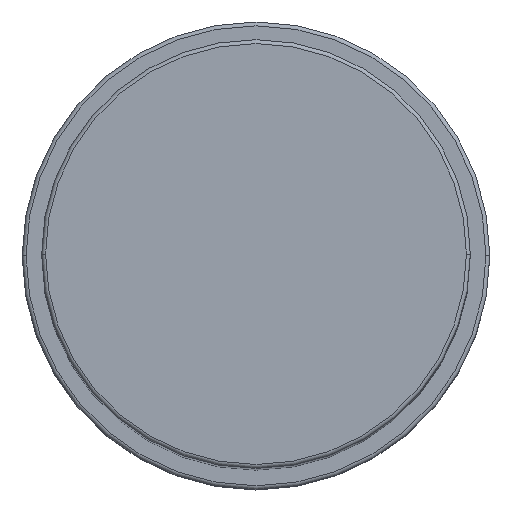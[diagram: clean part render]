
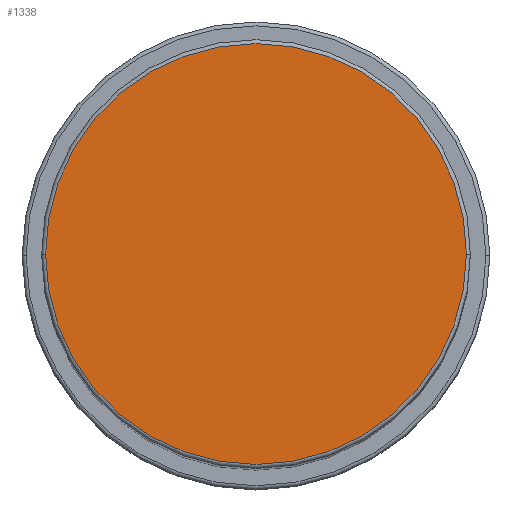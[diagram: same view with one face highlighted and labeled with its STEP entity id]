
A CAD part, top view. The second image highlights one B-rep face of the part: STEP entity #1338.
In plain terms, the highlighted planar face has unit normal (0, 0, 1).
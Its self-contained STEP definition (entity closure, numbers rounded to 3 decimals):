
#41 = EDGE_LOOP ( 'NONE', ( #989, #1153 ) ) ;
#167 = PLANE ( 'NONE',  #636 ) ;
#263 = CIRCLE ( 'NONE', #1312, 27. ) ;
#366 = VERTEX_POINT ( 'NONE', #994 ) ;
#415 = EDGE_CURVE ( 'NONE', #853, #366, #1489, .T. ) ;
#524 = CARTESIAN_POINT ( 'NONE',  ( -27., 0., 143. ) ) ;
#581 = CARTESIAN_POINT ( 'NONE',  ( 0., 0., 143. ) ) ;
#588 = DIRECTION ( 'NONE',  ( 0., 0., 1. ) ) ;
#617 = FACE_OUTER_BOUND ( 'NONE', #41, .T. ) ;
#636 = AXIS2_PLACEMENT_3D ( 'NONE', #581, #1085, #1195 ) ;
#707 = DIRECTION ( 'NONE',  ( 1., 0., 0. ) ) ;
#853 = VERTEX_POINT ( 'NONE', #524 ) ;
#858 = CARTESIAN_POINT ( 'NONE',  ( 0., 0., 143. ) ) ;
#989 = ORIENTED_EDGE ( 'NONE', *, *, #1400, .T. ) ;
#994 = CARTESIAN_POINT ( 'NONE',  ( 27., 0., 143. ) ) ;
#1085 = DIRECTION ( 'NONE',  ( 0., 0., 1. ) ) ;
#1111 = CARTESIAN_POINT ( 'NONE',  ( 0., 0., 143. ) ) ;
#1153 = ORIENTED_EDGE ( 'NONE', *, *, #415, .T. ) ;
#1195 = DIRECTION ( 'NONE',  ( 1., 0., 0. ) ) ;
#1273 = AXIS2_PLACEMENT_3D ( 'NONE', #858, #1639, #1505 ) ;
#1312 = AXIS2_PLACEMENT_3D ( 'NONE', #1111, #588, #707 ) ;
#1338 = ADVANCED_FACE ( 'NONE', ( #617 ), #167, .T. ) ;
#1400 = EDGE_CURVE ( 'NONE', #366, #853, #263, .T. ) ;
#1489 = CIRCLE ( 'NONE', #1273, 27. ) ;
#1505 = DIRECTION ( 'NONE',  ( 1., 0., 0. ) ) ;
#1639 = DIRECTION ( 'NONE',  ( 0., 0., 1. ) ) ;
